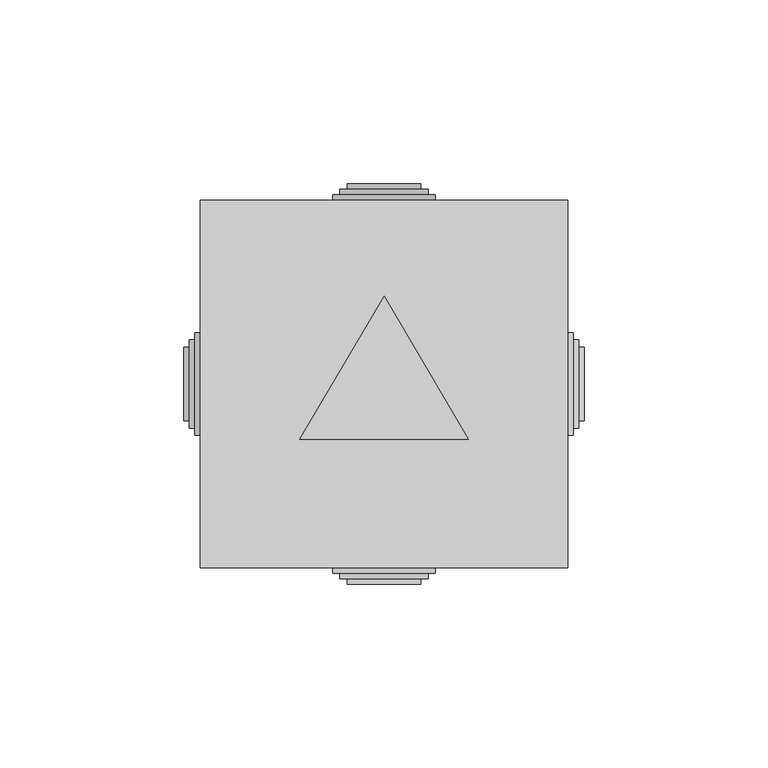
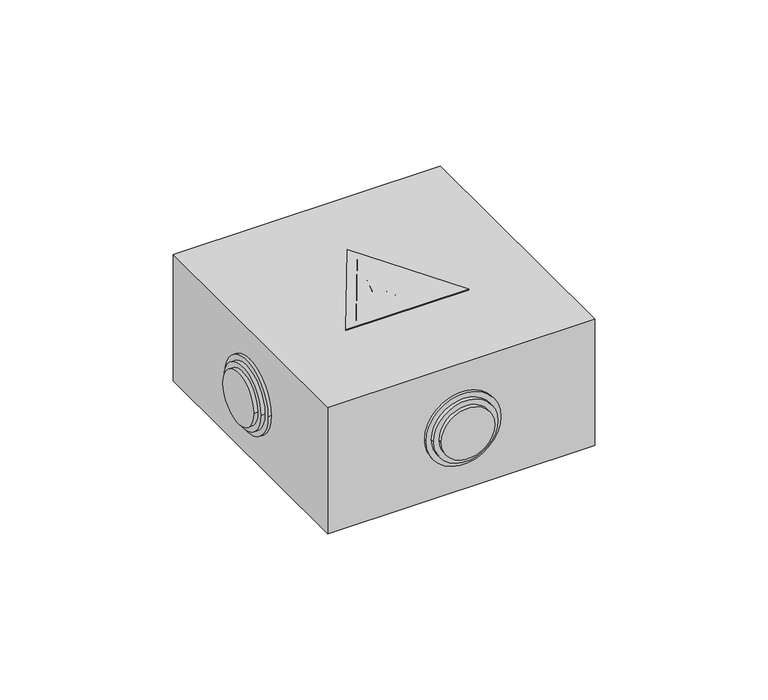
"""IFC4 building model written with IfcOpenShell, lengths in millimetres: proxy geometry, mS_EF_НГ_координация_электроприбор : mS_EF_НГ_координация_электроприбор."""

from ifc_helpers import new_model, si_unit, point, frame, origin, origin_2d, place, context, project, spatial, polyline, circle_curve, trimmed, segment, composite_curve, outline, extrude, source, transform, mapped, element, save


def electrical_fixtures_ff56aada(model_context):
    return source(origin(), model_context, "Body", "SweptSolid", [
        extrude(outline(polyline([(22.9265636, 14.989949), (-0.0285229, -23.8986682), (-22.9836095, 14.989949), (22.9265636, 14.989949)])), frame((0.0, 0.0, -25.2), z_axis=(0.0, 0.0, 1.0), x_axis=(1.0, 0.0, 0.0)), (0.0, 0.0, 1.0), 0.4),
        extrude(outline(polyline([(1.8044962, -10.5250696), (-1.4955038, -10.5250696), (2.2791111, -1.8071408), (-2.9170414, -4.8071408), (-0.0182681, 6.0112285), (-1.4276319, 5.0606005), (1.4242519, 9.2886922), (2.2577631, 4.5616149), (1.2293029, 5.7872861), (0.2337885, -1.7674533), (4.9514137, 0.8475691), (1.8044962, -10.5250696)])), frame((0.0, 0.0, -25.4), z_axis=(0.0, 0.0, 1.0), x_axis=(1.0, 0.0, 0.0)), (0.0, 0.0, 1.0), 0.8),
        extrude(outline(polyline([(-21.2035905, 13.989949), (21.2035905, 13.989949), (0.0, -21.9314278), (-21.2035905, 13.989949)]), holes=[polyline([(0.0, -17.210051), (17.0, 11.589949), (-17.0, 11.589949), (0.0, -17.210051)])]), frame((0.0, 0.0, -25.4), z_axis=(0.0, 0.0, 1.0), x_axis=(1.0, 0.0, 0.0)), (0.0, 0.0, 1.0), 0.8),
        extrude(outline(polyline([(-22.9265636, -14.989949), (0.0285229, 23.8986682), (22.9836095, -14.989949), (-22.9265636, -14.989949)])), frame((0.0, 0.0, 24.8), z_axis=(0.0, 0.0, 1.0), x_axis=(1.0, 0.0, 0.0)), (0.0, 0.0, 1.0), 0.4),
        extrude(outline(polyline([(-1.8044962, 10.5250696), (1.4955038, 10.5250696), (-2.2791111, 1.8071408), (2.9170414, 4.8071408), (0.0182681, -6.0112285), (1.4276319, -5.0606005), (-1.4242519, -9.2886922), (-2.2577631, -4.5616149), (-1.2293029, -5.7872861), (-0.2337885, 1.7674533), (-4.9514137, -0.8475691), (-1.8044962, 10.5250696)])), frame((0.0, 0.0, 24.6), z_axis=(0.0, 0.0, 1.0), x_axis=(1.0, 0.0, 0.0)), (0.0, 0.0, 1.0), 0.8),
        extrude(outline(polyline([(21.2035905, -13.989949), (-21.2035905, -13.989949), (0.0, 21.9314278), (21.2035905, -13.989949)]), holes=[polyline([(0.0, 17.210051), (-17.0, -11.589949), (17.0, -11.589949), (0.0, 17.210051)])]), frame((0.0, 0.0, 24.6), z_axis=(0.0, 0.0, 1.0), x_axis=(1.0, 0.0, 0.0)), (0.0, 0.0, 1.0), 0.8),
        extrude(outline(polyline([(50.0, 50.0), (50.0, -50.0), (-50.0, -50.0), (-50.0, 50.0), (50.0, 50.0)])), frame((0.0, 0.0, -25.0), z_axis=(0.0, 0.0, 1.0), x_axis=(1.0, 0.0, 0.0)), (0.0, 0.0, 1.0), 50.0),
        extrude(outline(composite_curve([segment(trimmed(circle_curve(origin_2d(), 10.0), [point((0.0, 10.0))], [point((0.0, -10.0))], False, "CARTESIAN"), True, "CONTINUOUS"), segment(trimmed(circle_curve(origin_2d(), 10.0), [point((0.0, -10.0))], [point((0.0, 10.0))], False, "CARTESIAN"), True, "CONTINUOUS")], self_intersect=False)), frame((0.0, -54.5, 0.0), z_axis=(0.0, 1.0, 0.0), x_axis=(0.0, 0.0, 1.0)), (0.0, 0.0, 1.0), 1.5),
        extrude(outline(composite_curve([segment(trimmed(circle_curve(origin_2d(), 12.0), [point((0.0, 12.0))], [point((0.0, -12.0))], False, "CARTESIAN"), True, "CONTINUOUS"), segment(trimmed(circle_curve(origin_2d(), 12.0), [point((0.0, -12.0))], [point((0.0, 12.0))], False, "CARTESIAN"), True, "CONTINUOUS")], self_intersect=False)), frame((0.0, -53.0, 0.0), z_axis=(0.0, 1.0, 0.0), x_axis=(0.0, 0.0, 1.0)), (0.0, 0.0, 1.0), 1.5),
        extrude(outline(composite_curve([segment(trimmed(circle_curve(origin_2d(), 14.0), [point((0.0, 14.0))], [point((0.0, -14.0))], False, "CARTESIAN"), True, "CONTINUOUS"), segment(trimmed(circle_curve(origin_2d(), 14.0), [point((0.0, -14.0))], [point((0.0, 14.0))], False, "CARTESIAN"), True, "CONTINUOUS")], self_intersect=False)), frame((0.0, -51.5, 0.0), z_axis=(0.0, 1.0, 0.0), x_axis=(0.0, 0.0, 1.0)), (0.0, 0.0, 1.0), 1.5),
        extrude(outline(composite_curve([segment(trimmed(circle_curve(origin_2d(), 10.0), [point((-10.0, 0.0))], [point((10.0, 0.0))], False, "CARTESIAN"), True, "CONTINUOUS"), segment(trimmed(circle_curve(origin_2d(), 10.0), [point((10.0, 0.0))], [point((-10.0, 0.0))], False, "CARTESIAN"), True, "CONTINUOUS")], self_intersect=False)), frame((-54.5, 0.0, 0.0), z_axis=(1.0, 0.0, 0.0), x_axis=(0.0, 1.0, 0.0)), (0.0, 0.0, 1.0), 1.5),
        extrude(outline(composite_curve([segment(trimmed(circle_curve(origin_2d(), 12.0), [point((-12.0, 0.0))], [point((12.0, 0.0))], False, "CARTESIAN"), True, "CONTINUOUS"), segment(trimmed(circle_curve(origin_2d(), 12.0), [point((12.0, 0.0))], [point((-12.0, 0.0))], False, "CARTESIAN"), True, "CONTINUOUS")], self_intersect=False)), frame((-53.0, 0.0, 0.0), z_axis=(1.0, 0.0, 0.0), x_axis=(0.0, 1.0, 0.0)), (0.0, 0.0, 1.0), 1.5),
        extrude(outline(composite_curve([segment(trimmed(circle_curve(origin_2d(), 14.0), [point((-14.0, 0.0))], [point((14.0, 0.0))], False, "CARTESIAN"), True, "CONTINUOUS"), segment(trimmed(circle_curve(origin_2d(), 14.0), [point((14.0, 0.0))], [point((-14.0, 0.0))], False, "CARTESIAN"), True, "CONTINUOUS")], self_intersect=False)), frame((-51.5, 0.0, 0.0), z_axis=(1.0, 0.0, 0.0), x_axis=(0.0, 1.0, 0.0)), (0.0, 0.0, 1.0), 1.5),
        extrude(outline(composite_curve([segment(trimmed(circle_curve(origin_2d(), 10.0), [point((0.0, -10.0))], [point((0.0, 10.0))], False, "CARTESIAN"), True, "CONTINUOUS"), segment(trimmed(circle_curve(origin_2d(), 10.0), [point((0.0, 10.0))], [point((0.0, -10.0))], False, "CARTESIAN"), True, "CONTINUOUS")], self_intersect=False)), frame((0.0, 53.0, 0.0), z_axis=(0.0, 1.0, 0.0), x_axis=(0.0, 0.0, 1.0)), (0.0, 0.0, 1.0), 1.5),
        extrude(outline(composite_curve([segment(trimmed(circle_curve(origin_2d(), 12.0), [point((0.0, -12.0))], [point((0.0, 12.0))], False, "CARTESIAN"), True, "CONTINUOUS"), segment(trimmed(circle_curve(origin_2d(), 12.0), [point((0.0, 12.0))], [point((0.0, -12.0))], False, "CARTESIAN"), True, "CONTINUOUS")], self_intersect=False)), frame((0.0, 51.5, 0.0), z_axis=(0.0, 1.0, 0.0), x_axis=(0.0, 0.0, 1.0)), (0.0, 0.0, 1.0), 1.5),
        extrude(outline(composite_curve([segment(trimmed(circle_curve(origin_2d(), 14.0), [point((0.0, -14.0))], [point((0.0, 14.0))], False, "CARTESIAN"), True, "CONTINUOUS"), segment(trimmed(circle_curve(origin_2d(), 14.0), [point((0.0, 14.0))], [point((0.0, -14.0))], False, "CARTESIAN"), True, "CONTINUOUS")], self_intersect=False)), frame((0.0, 50.0, 0.0), z_axis=(0.0, 1.0, 0.0), x_axis=(0.0, 0.0, 1.0)), (0.0, 0.0, 1.0), 1.5),
        extrude(outline(composite_curve([segment(trimmed(circle_curve(origin_2d(), 10.0), [point((10.0, 0.0))], [point((-10.0, 0.0))], False, "CARTESIAN"), True, "CONTINUOUS"), segment(trimmed(circle_curve(origin_2d(), 10.0), [point((-10.0, 0.0))], [point((10.0, 0.0))], False, "CARTESIAN"), True, "CONTINUOUS")], self_intersect=False)), frame((53.0, 0.0, 0.0), z_axis=(1.0, 0.0, 0.0), x_axis=(0.0, 1.0, 0.0)), (0.0, 0.0, 1.0), 1.5),
        extrude(outline(composite_curve([segment(trimmed(circle_curve(origin_2d(), 12.0), [point((12.0, 0.0))], [point((-12.0, 0.0))], False, "CARTESIAN"), True, "CONTINUOUS"), segment(trimmed(circle_curve(origin_2d(), 12.0), [point((-12.0, 0.0))], [point((12.0, 0.0))], False, "CARTESIAN"), True, "CONTINUOUS")], self_intersect=False)), frame((51.5, 0.0, 0.0), z_axis=(1.0, 0.0, 0.0), x_axis=(0.0, 1.0, 0.0)), (0.0, 0.0, 1.0), 1.5),
        extrude(outline(composite_curve([segment(trimmed(circle_curve(origin_2d(), 14.0), [point((14.0, 0.0))], [point((-14.0, 0.0))], False, "CARTESIAN"), True, "CONTINUOUS"), segment(trimmed(circle_curve(origin_2d(), 14.0), [point((-14.0, 0.0))], [point((14.0, 0.0))], False, "CARTESIAN"), True, "CONTINUOUS")], self_intersect=False)), frame((50.0, 0.0, 0.0), z_axis=(1.0, 0.0, 0.0), x_axis=(0.0, 1.0, 0.0)), (0.0, 0.0, 1.0), 1.5),
    ])


if __name__ == "__main__":
    model = new_model("IFC4")
    model_context = context("Model", 3, world=origin())
    ifc_project = project(units=[si_unit("LENGTHUNIT", "METRE", prefix="MILLI")], contexts=[model_context])
    site = spatial("IfcSite", under=ifc_project)
    building = spatial("IfcBuilding", under=site)
    placement = place(None, origin())
    electrical_fixtures_shape = electrical_fixtures_ff56aada(model_context)
    element("IfcBuildingElementProxy", 1, Name="mS_EF_НГ_координация_электроприбор : mS_EF_НГ_координация_электроприбор", ObjectType="mS_EF_НГ_координация_электроприбор : mS_EF_НГ_координация_электроприбор", at=placement, inside=building, context=model_context, shape_type="MappedRepresentation", body=[
        mapped(electrical_fixtures_shape, transform((0.0, 0.0, 0.0), x_axis=(1.0, 0.0, 0.0), y_axis=(0.0, 1.0, 0.0), z_axis=(0.0, 0.0, 1.0))),
    ])
    save(model, "model.ifc")
